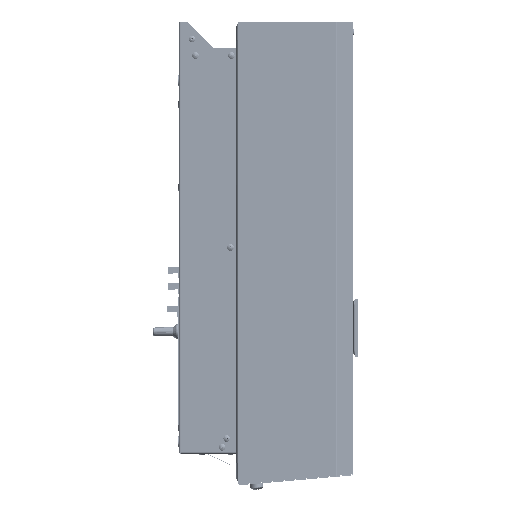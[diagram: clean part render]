
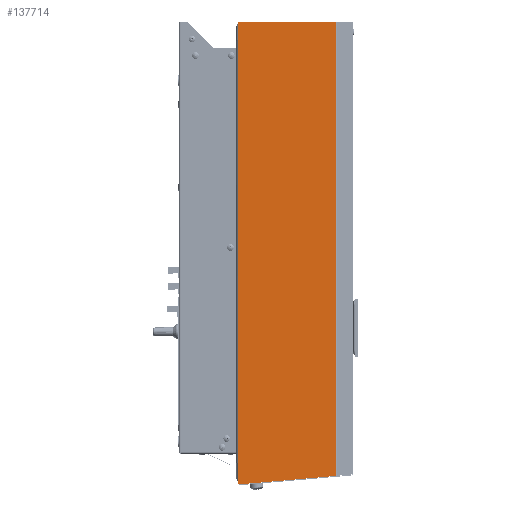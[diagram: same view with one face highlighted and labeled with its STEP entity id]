
A CAD part, left-side view. The second image highlights one B-rep face of the part: STEP entity #137714.
In plain terms, the highlighted planar face has unit normal (-1, 0, 0) as drawn and (1, 0, 0) by its records, which use the part's own axes.
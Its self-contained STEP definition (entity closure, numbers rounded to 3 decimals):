
#37105 = DIRECTION ( 'NONE',  ( 0., 0.087, -0.996 ) ) ;
#37106 = VECTOR ( 'NONE', #37105, 1000. ) ;
#37107 = CARTESIAN_POINT ( 'NONE',  ( 155., 511.408, -21.414 ) ) ;
#37108 = LINE ( 'NONE', #37107, #37106 ) ;
#37113 = CARTESIAN_POINT ( 'NONE',  ( 155., -35., -20.828 ) ) ;
#37114 = DIRECTION ( 'NONE',  ( 0., 0., 1. ) ) ;
#37115 = VECTOR ( 'NONE', #37114, 1000. ) ;
#37116 = CARTESIAN_POINT ( 'NONE',  ( 155., -35., 6.321 ) ) ;
#37117 = LINE ( 'NONE', #37116, #37115 ) ;
#37119 = CARTESIAN_POINT ( 'NONE',  ( 155., -35., -138.3 ) ) ;
#37138 = CARTESIAN_POINT ( 'NONE',  ( 155., 521.634, -138.3 ) ) ;
#37194 = CARTESIAN_POINT ( 'NONE',  ( 155., 511.408, -21.414 ) ) ;
#37243 = DIRECTION ( 'NONE',  ( 0., -1., 0. ) ) ;
#37244 = VECTOR ( 'NONE', #37243, 1000. ) ;
#37245 = CARTESIAN_POINT ( 'NONE',  ( 155., 511.252, -20.828 ) ) ;
#37246 = LINE ( 'NONE', #37245, #37244 ) ;
#37247 = CARTESIAN_POINT ( 'NONE',  ( 155., 511.252, -20.828 ) ) ;
#37248 = DIRECTION ( 'NONE',  ( 0., 0.087, -0.996 ) ) ;
#37249 = VECTOR ( 'NONE', #37248, 1000. ) ;
#37250 = CARTESIAN_POINT ( 'NONE',  ( 155., 511.179, -20. ) ) ;
#37251 = LINE ( 'NONE', #37250, #37249 ) ;
#37252 = CARTESIAN_POINT ( 'NONE',  ( 155., 511.304, -21.423 ) ) ;
#37253 = DIRECTION ( 'NONE',  ( 0., -0.996, -0.087 ) ) ;
#37254 = VECTOR ( 'NONE', #37253, 1000. ) ;
#37255 = CARTESIAN_POINT ( 'NONE',  ( 155., 511.408, -21.414 ) ) ;
#37256 = LINE ( 'NONE', #37255, #37254 ) ;
#37257 = DIRECTION ( 'NONE',  ( 0., 1., 0. ) ) ;
#37258 = VECTOR ( 'NONE', #37257, 1000. ) ;
#37259 = CARTESIAN_POINT ( 'NONE',  ( 155., -36.756, -138.3 ) ) ;
#37260 = DIRECTION ( 'NONE',  ( 0., 0., 1. ) ) ;
#37261 = DIRECTION ( 'NONE',  ( -1., 0., 0. ) ) ;
#37262 = CARTESIAN_POINT ( 'NONE',  ( 155., 253.244, -88.35 ) ) ;
#37263 = AXIS2_PLACEMENT_3D ( 'NONE', #37262, #37261, #37260 ) ;
#37264 = PLANE ( 'NONE',  #37263 ) ;
#37265 = LINE ( 'NONE', #37259, #37258 ) ;
#37267 = FACE_OUTER_BOUND ( 'NONE', #137715, .T. ) ;
#137642 = VERTEX_POINT ( 'NONE', #37119 ) ;
#137644 = EDGE_CURVE ( 'NONE', #137642, #137645, #37117, .T. ) ;
#137645 = VERTEX_POINT ( 'NONE', #37113 ) ;
#137650 = EDGE_CURVE ( 'NONE', #137678, #137672, #37108, .T. ) ;
#137672 = VERTEX_POINT ( 'NONE', #37138 ) ;
#137678 = VERTEX_POINT ( 'NONE', #37194 ) ;
#137698 = ORIENTED_EDGE ( 'NONE', *, *, #137644, .F. ) ;
#137714 = ADVANCED_FACE ( 'NONE', ( #37267 ), #37264, .F. ) ;
#137715 = EDGE_LOOP ( 'NONE', ( #137716, #137718, #137719, #137722, #137725, #137698 ) ) ;
#137716 = ORIENTED_EDGE ( 'NONE', *, *, #137717, .T. ) ;
#137717 = EDGE_CURVE ( 'NONE', #137642, #137672, #37265, .T. ) ;
#137718 = ORIENTED_EDGE ( 'NONE', *, *, #137650, .F. ) ;
#137719 = ORIENTED_EDGE ( 'NONE', *, *, #137720, .T. ) ;
#137720 = EDGE_CURVE ( 'NONE', #137678, #137721, #37256, .T. ) ;
#137721 = VERTEX_POINT ( 'NONE', #37252 ) ;
#137722 = ORIENTED_EDGE ( 'NONE', *, *, #137723, .F. ) ;
#137723 = EDGE_CURVE ( 'NONE', #137724, #137721, #37251, .T. ) ;
#137724 = VERTEX_POINT ( 'NONE', #37247 ) ;
#137725 = ORIENTED_EDGE ( 'NONE', *, *, #137726, .T. ) ;
#137726 = EDGE_CURVE ( 'NONE', #137724, #137645, #37246, .T. ) ;
